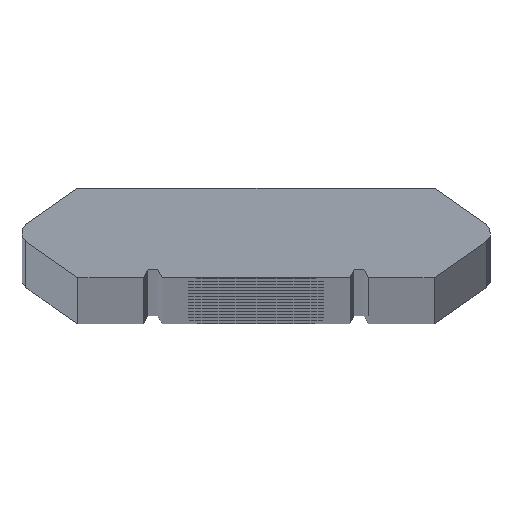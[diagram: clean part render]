
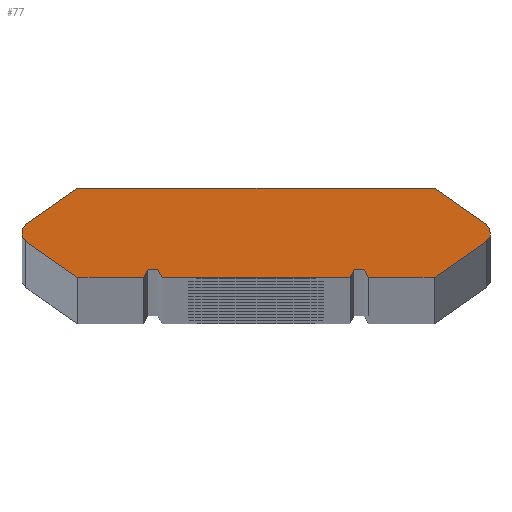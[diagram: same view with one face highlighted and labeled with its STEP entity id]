
A CAD part, top view. The second image highlights one B-rep face of the part: STEP entity #77.
In plain terms, the highlighted planar face has unit normal (0, 0, 1).
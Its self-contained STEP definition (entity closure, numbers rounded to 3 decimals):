
#77=ADVANCED_FACE('',(#148),#149,.T.);
#148=FACE_OUTER_BOUND('',#360,.T.);
#149=PLANE('',#361);
#360=EDGE_LOOP('',(#576,#577,#578,#579,#580,#581,#582,#583,#584,#585,#586,#587,#588,#589,#590,#591));
#361=AXIS2_PLACEMENT_3D('',#592,#593,#594);
#576=ORIENTED_EDGE('',*,*,#992,.T.);
#577=ORIENTED_EDGE('',*,*,#993,.T.);
#578=ORIENTED_EDGE('',*,*,#994,.T.);
#579=ORIENTED_EDGE('',*,*,#995,.T.);
#580=ORIENTED_EDGE('',*,*,#996,.T.);
#581=ORIENTED_EDGE('',*,*,#997,.T.);
#582=ORIENTED_EDGE('',*,*,#998,.T.);
#583=ORIENTED_EDGE('',*,*,#999,.T.);
#584=ORIENTED_EDGE('',*,*,#1000,.T.);
#585=ORIENTED_EDGE('',*,*,#1001,.T.);
#586=ORIENTED_EDGE('',*,*,#1002,.T.);
#587=ORIENTED_EDGE('',*,*,#1003,.T.);
#588=ORIENTED_EDGE('',*,*,#1004,.T.);
#589=ORIENTED_EDGE('',*,*,#1005,.T.);
#590=ORIENTED_EDGE('',*,*,#1006,.T.);
#591=ORIENTED_EDGE('',*,*,#1007,.T.);
#592=CARTESIAN_POINT('',(-12.33,0.,0.0));
#593=DIRECTION('',(0.0,0.0,1.0));
#594=DIRECTION('',(-0.574,-0.819,0.0));
#992=EDGE_CURVE('',#1108,#1109,#1110,.T.);
#993=EDGE_CURVE('',#1109,#1111,#1112,.T.);
#994=EDGE_CURVE('',#1111,#1113,#1114,.T.);
#995=EDGE_CURVE('',#1113,#1115,#1116,.T.);
#996=EDGE_CURVE('',#1115,#1117,#1118,.T.);
#997=EDGE_CURVE('',#1117,#1119,#1120,.T.);
#998=EDGE_CURVE('',#1119,#1121,#1122,.T.);
#999=EDGE_CURVE('',#1121,#1123,#1124,.T.);
#1000=EDGE_CURVE('',#1123,#1125,#1126,.T.);
#1001=EDGE_CURVE('',#1125,#1127,#1128,.T.);
#1002=EDGE_CURVE('',#1127,#1129,#1130,.T.);
#1003=EDGE_CURVE('',#1129,#1131,#1132,.T.);
#1004=EDGE_CURVE('',#1131,#1133,#1134,.T.);
#1005=EDGE_CURVE('',#1133,#1135,#1136,.T.);
#1006=EDGE_CURVE('',#1135,#1137,#1138,.T.);
#1007=EDGE_CURVE('',#1137,#1108,#1139,.T.);
#1108=VERTEX_POINT('',#1316);
#1109=VERTEX_POINT('',#1317);
#1110=LINE('',#1318,#1319);
#1111=VERTEX_POINT('',#1320);
#1112=LINE('',#1321,#1322);
#1113=VERTEX_POINT('',#1323);
#1114=LINE('',#1324,#1325);
#1115=VERTEX_POINT('',#1326);
#1116=CIRCLE('',#1327,0.5);
#1117=VERTEX_POINT('',#1328);
#1118=LINE('',#1329,#1330);
#1119=VERTEX_POINT('',#1331);
#1120=LINE('',#1332,#1333);
#1121=VERTEX_POINT('',#1334);
#1122=LINE('',#1335,#1336);
#1123=VERTEX_POINT('',#1337);
#1124=CIRCLE('',#1338,0.5);
#1125=VERTEX_POINT('',#1339);
#1126=LINE('',#1340,#1341);
#1127=VERTEX_POINT('',#1342);
#1128=LINE('',#1343,#1344);
#1129=VERTEX_POINT('',#1345);
#1130=LINE('',#1346,#1347);
#1131=VERTEX_POINT('',#1348);
#1132=CIRCLE('',#1349,0.545);
#1133=VERTEX_POINT('',#1350);
#1134=LINE('',#1351,#1352);
#1135=VERTEX_POINT('',#1353);
#1136=LINE('',#1354,#1355);
#1137=VERTEX_POINT('',#1356);
#1138=LINE('',#1357,#1358);
#1139=CIRCLE('',#1359,0.545);
#1316=CARTESIAN_POINT('',(-12.268,-0.446,0.0));
#1317=CARTESIAN_POINT('',(-9.492,-2.39,0.0));
#1318=CARTESIAN_POINT('',(-12.519,-0.27,0.0));
#1319=VECTOR('',#1568,1.0);
#1320=CARTESIAN_POINT('',(-6.,-2.39,0.0));
#1321=CARTESIAN_POINT('',(-12.33,-2.39,0.0));
#1322=VECTOR('',#1569,1.0);
#1323=CARTESIAN_POINT('',(-6.,-2.385,0.0));
#1324=CARTESIAN_POINT('',(-6.,-2.59,0.0));
#1325=VECTOR('',#1570,1.0);
#1326=CARTESIAN_POINT('',(-5.,-2.385,0.0));
#1327=AXIS2_PLACEMENT_3D('',#1571,#1572,#1573);
#1328=CARTESIAN_POINT('',(-5.,-2.39,0.0));
#1329=CARTESIAN_POINT('',(-5.,-2.385,0.0));
#1330=VECTOR('',#1574,1.0);
#1331=CARTESIAN_POINT('',(5.,-2.39,0.0));
#1332=CARTESIAN_POINT('',(-12.33,-2.39,0.0));
#1333=VECTOR('',#1575,1.0);
#1334=CARTESIAN_POINT('',(5.,-2.385,0.0));
#1335=CARTESIAN_POINT('',(5.,-2.59,0.0));
#1336=VECTOR('',#1576,1.0);
#1337=CARTESIAN_POINT('',(6.0,-2.385,0.0));
#1338=AXIS2_PLACEMENT_3D('',#1577,#1578,#1579);
#1339=CARTESIAN_POINT('',(6.,-2.39,0.0));
#1340=CARTESIAN_POINT('',(6.,-2.385,0.0));
#1341=VECTOR('',#1580,1.0);
#1342=CARTESIAN_POINT('',(9.492,-2.39,0.0));
#1343=CARTESIAN_POINT('',(-12.33,-2.39,0.0));
#1344=VECTOR('',#1581,1.0);
#1345=CARTESIAN_POINT('',(12.268,-0.446,0.0));
#1346=CARTESIAN_POINT('',(-4.028,-11.857,0.0));
#1347=VECTOR('',#1582,1.0);
#1348=CARTESIAN_POINT('',(12.268,0.446,0.0));
#1349=AXIS2_PLACEMENT_3D('',#1583,#1584,#1585);
#1350=CARTESIAN_POINT('',(9.492,2.39,0.0));
#1351=CARTESIAN_POINT('',(-4.028,11.857,0.0));
#1352=VECTOR('',#1586,1.0);
#1353=CARTESIAN_POINT('',(-9.492,2.39,0.0));
#1354=CARTESIAN_POINT('',(-12.33,2.39,0.0));
#1355=VECTOR('',#1587,1.0);
#1356=CARTESIAN_POINT('',(-12.268,0.446,0.0));
#1357=CARTESIAN_POINT('',(-12.519,0.27,0.0));
#1358=VECTOR('',#1588,1.0);
#1359=AXIS2_PLACEMENT_3D('',#1589,#1590,#1591);
#1568=DIRECTION('',(0.819,-0.574,0.0));
#1569=DIRECTION('',(1.0,0.,0.0));
#1570=DIRECTION('',(0.,1.0,0.0));
#1571=CARTESIAN_POINT('',(-5.5,-2.385,0.0));
#1572=DIRECTION('',(-0.0,0.0,-1.0));
#1573=DIRECTION('',(0.,-1.0,0.0));
#1574=DIRECTION('',(0.,-1.,0.0));
#1575=DIRECTION('',(1.0,0.,0.0));
#1576=DIRECTION('',(0.,1.0,0.0));
#1577=CARTESIAN_POINT('',(5.5,-2.385,0.0));
#1578=DIRECTION('',(0.0,0.0,-1.0));
#1579=DIRECTION('',(0.,-1.0,0.0));
#1580=DIRECTION('',(0.,-1.0,0.0));
#1581=DIRECTION('',(1.0,0.,0.0));
#1582=DIRECTION('',(0.819,0.574,0.0));
#1583=CARTESIAN_POINT('',(11.955,0.,0.0));
#1584=DIRECTION('',(0.0,-0.0,1.0));
#1585=DIRECTION('',(0.,1.0,0.0));
#1586=DIRECTION('',(-0.819,0.574,0.0));
#1587=DIRECTION('',(-1.0,0.,0.0));
#1588=DIRECTION('',(-0.819,-0.574,0.0));
#1589=CARTESIAN_POINT('',(-11.955,0.,0.0));
#1590=DIRECTION('',(0.0,-0.0,1.0));
#1591=DIRECTION('',(0.,1.0,0.0));
